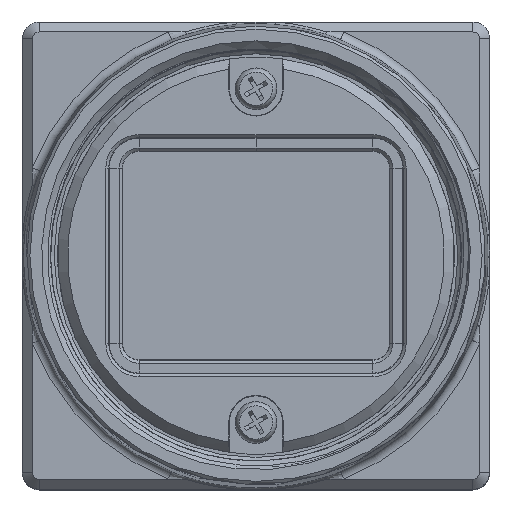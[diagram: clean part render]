
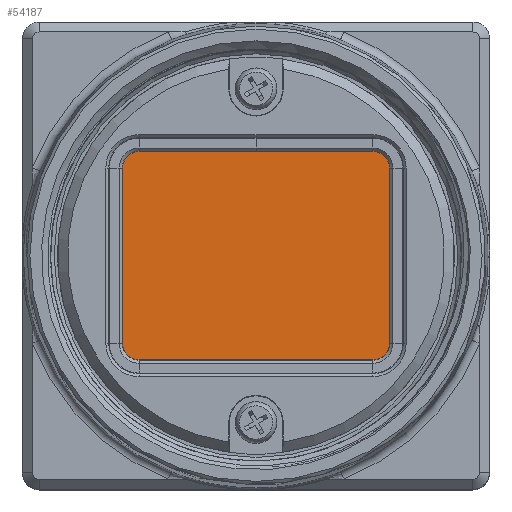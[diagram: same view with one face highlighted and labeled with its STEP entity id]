
A CAD part, top view. The second image highlights one B-rep face of the part: STEP entity #54187.
In plain terms, the highlighted planar face has unit normal (0, 0, 1).
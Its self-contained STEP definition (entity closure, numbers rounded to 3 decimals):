
#783 = DIRECTION ( 'NONE',  ( 0., 0., -1. ) ) ;
#1698 = LINE ( 'NONE', #94002, #117792 ) ;
#12463 = ORIENTED_EDGE ( 'NONE', *, *, #89876, .T. ) ;
#21555 = ORIENTED_EDGE ( 'NONE', *, *, #112406, .T. ) ;
#27662 = FACE_OUTER_BOUND ( 'NONE', #129754, .T. ) ;
#33682 = CARTESIAN_POINT ( 'NONE',  ( 9., -7.25, 6. ) ) ;
#38600 = ORIENTED_EDGE ( 'NONE', *, *, #117481, .T. ) ;
#43297 = LINE ( 'NONE', #110347, #121349 ) ;
#45486 = VERTEX_POINT ( 'NONE', #135821 ) ;
#49376 = AXIS2_PLACEMENT_3D ( 'NONE', #93177, #783, #92675 ) ;
#51963 = CARTESIAN_POINT ( 'NONE',  ( -9., 7.25, 6. ) ) ;
#54187 = ADVANCED_FACE ( 'NONE', ( #27662 ), #128293, .F. ) ;
#56671 = VERTEX_POINT ( 'NONE', #124091 ) ;
#59677 = VECTOR ( 'NONE', #96638, 1000. ) ;
#67153 = LINE ( 'NONE', #51963, #59677 ) ;
#74604 = LINE ( 'NONE', #135624, #76482 ) ;
#76365 = DIRECTION ( 'NONE',  ( 1., 0., 0. ) ) ;
#76482 = VECTOR ( 'NONE', #137635, 1000. ) ;
#89876 = EDGE_CURVE ( 'NONE', #56671, #45486, #67153, .T. ) ;
#90095 = EDGE_CURVE ( 'NONE', #45486, #102321, #1698, .T. ) ;
#92675 = DIRECTION ( 'NONE',  ( -1., 0., 0. ) ) ;
#93177 = CARTESIAN_POINT ( 'NONE',  ( 0., 0., 6. ) ) ;
#94002 = CARTESIAN_POINT ( 'NONE',  ( -9., -7.25, 6. ) ) ;
#96638 = DIRECTION ( 'NONE',  ( -1., 0., 0. ) ) ;
#100886 = VERTEX_POINT ( 'NONE', #33682 ) ;
#102321 = VERTEX_POINT ( 'NONE', #125391 ) ;
#105700 = DIRECTION ( 'NONE',  ( 0., -1., 0. ) ) ;
#110347 = CARTESIAN_POINT ( 'NONE',  ( -9., -7.25, 6. ) ) ;
#112406 = EDGE_CURVE ( 'NONE', #100886, #56671, #74604, .T. ) ;
#117308 = ORIENTED_EDGE ( 'NONE', *, *, #90095, .T. ) ;
#117481 = EDGE_CURVE ( 'NONE', #102321, #100886, #43297, .T. ) ;
#117792 = VECTOR ( 'NONE', #105700, 1000. ) ;
#121349 = VECTOR ( 'NONE', #76365, 1000. ) ;
#124091 = CARTESIAN_POINT ( 'NONE',  ( 9., 7.25, 6. ) ) ;
#125391 = CARTESIAN_POINT ( 'NONE',  ( -9., -7.25, 6. ) ) ;
#128293 = PLANE ( 'NONE',  #49376 ) ;
#129754 = EDGE_LOOP ( 'NONE', ( #21555, #12463, #117308, #38600 ) ) ;
#135624 = CARTESIAN_POINT ( 'NONE',  ( 9., -7.25, 6. ) ) ;
#135821 = CARTESIAN_POINT ( 'NONE',  ( -9., 7.25, 6. ) ) ;
#137635 = DIRECTION ( 'NONE',  ( 0., 1., 0. ) ) ;
